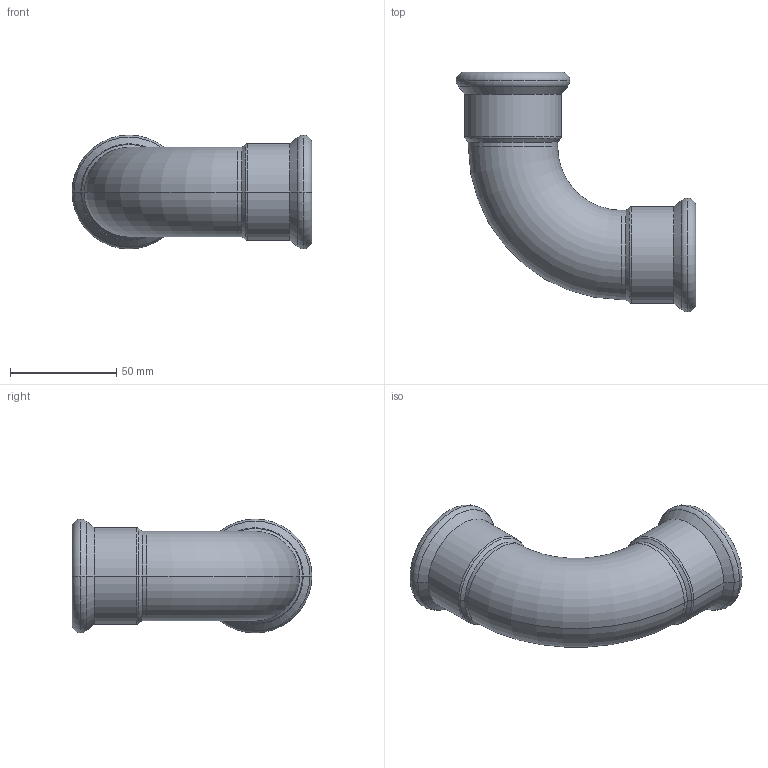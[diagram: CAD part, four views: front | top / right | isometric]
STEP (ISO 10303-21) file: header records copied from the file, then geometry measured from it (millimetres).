
FILE_DESCRIPTION(('CoCreate Modeling STEP Export'),'2;1');
FILE_NAME('C1408 42x42.stp','2014-11-07T16:45:21',(''),(''),'CoCreate Modeling STEP processor for AP214 (Solid Model)','CoCreate Modeling 17.00A 17-Jun-2010 (C) Parametric Technology GmbH','');
FILE_SCHEMA(('AUTOMOTIVE_DESIGN { 1 0 10303 214 1 1 1 1 }'));
Length unit declared in the file: millimetre
Products named in the file (2): C1408_42x42
Assembly tree (1 placements, depth 2):
  C1408_42x42
    C1408_42x42
Bounding box: 112.78 x 112.78 x 53.55 mm (x, y, z)
Volume: 39226.3 mm3; surface area: 42288.1 mm2
Topology: 1 solids, 1 shells, 50 faces, 104 edges, 60 vertices
Faces by surface type: cylinder 20, torus 16, cone 8, plane 6
Entity records: 1119 total; most frequent: ORIENTED_EDGE 208, DIRECTION 176, CARTESIAN_POINT 162, EDGE_CURVE 104, AXIS2_PLACEMENT_3D 74, VERTEX_POINT 60, EDGE_LOOP 56, FACE_OUTER_BOUND 50
